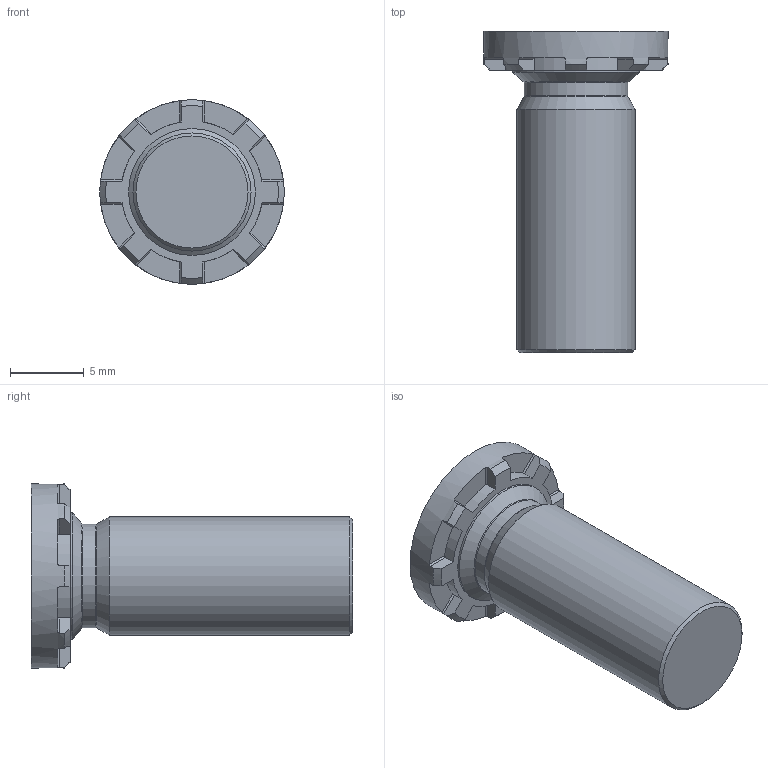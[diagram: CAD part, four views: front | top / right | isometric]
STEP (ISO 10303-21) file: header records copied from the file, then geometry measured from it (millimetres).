
FILE_DESCRIPTION(/* description */ (''),/* implementation_level */ '2;1');
FILE_NAME(/* name */ 'C:\Users\keval.kumar\Desktop\Fastit\Clinch Screw- HFH Range\M8\Clinch Screw-HFH Range_M8x20.stp',/* time_stamp */ '2024-03-12T15:20:38+06:00',/* author */ ('keval.kumar'),/* organization */ (''),/* preprocessor_version */ 'ST-DEVELOPER v18.1',/* originating_system */ 'Autodesk Inventor 2022',/* authorisation */ '');
FILE_SCHEMA (('AUTOMOTIVE_DESIGN { 1 0 10303 214 3 1 1 }'));
Length unit declared in the file: millimetre
Products named in the file (1): Clinch Screw-HFH Range_M8x20
Bounding box: 12.5 x 21.78 x 12.5 mm (x, y, z)
Volume: 1238.7 mm3; surface area: 833.5 mm2
Topology: 1 solids, 1 shells, 68 faces, 193 edges, 128 vertices
Faces by surface type: plane 43, cylinder 12, cone 11, torus 2
Full cylindrical faces by diameter (mm): 7 x1, 8 x1, 8.6 x1, 12.5 x1
Entity records: 2278 total; most frequent: CARTESIAN_POINT 422, DIRECTION 405, ORIENTED_EDGE 386, EDGE_CURVE 193, AXIS2_PLACEMENT_3D 159, VERTEX_POINT 128, LINE 87, VECTOR 87
